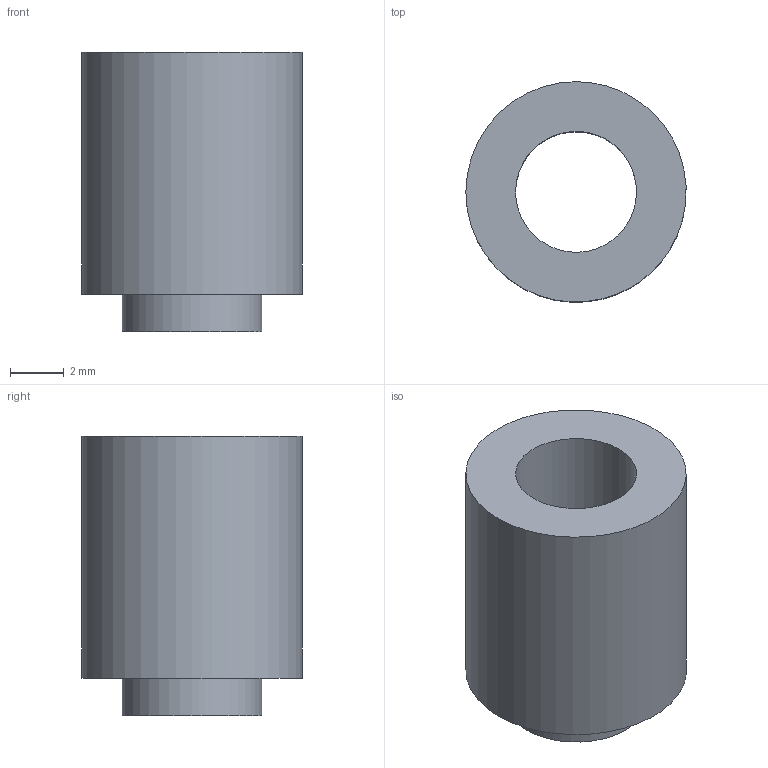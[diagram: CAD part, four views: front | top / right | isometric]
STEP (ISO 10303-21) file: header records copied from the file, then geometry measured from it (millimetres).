
FILE_DESCRIPTION(('FreeCAD Model'),'2;1');
FILE_NAME('Open CASCADE Shape Model','2026-03-20T17:23:26',('Author'),( ''),'Open CASCADE STEP processor 7.8','FreeCAD','Unknown');
FILE_SCHEMA(('AP242_MANAGED_MODEL_BASED_3D_ENGINEERING_MIM_LF. {1 0 10303 442 1 1 4 }'));
Length unit declared in the file: millimetre
Products named in the file (1): 1_transformed
Bounding box: 8.19 x 8.2 x 10.4 mm (x, y, z)
Volume: 342.5 mm3; surface area: 476.6 mm2
Topology: 1 solids, 1 shells, 6 faces, 9 edges, 6 vertices
Faces by surface type: bspline 6
Entity records: 201 total; most frequent: CARTESIAN_POINT 109, ORIENTED_EDGE 18, FACE_BOUND 9, EDGE_LOOP 9, EDGE_CURVE 9, ADVANCED_FACE 6, VERTEX_POINT 6, B_SPLINE_CURVE_WITH_KNOTS 3
